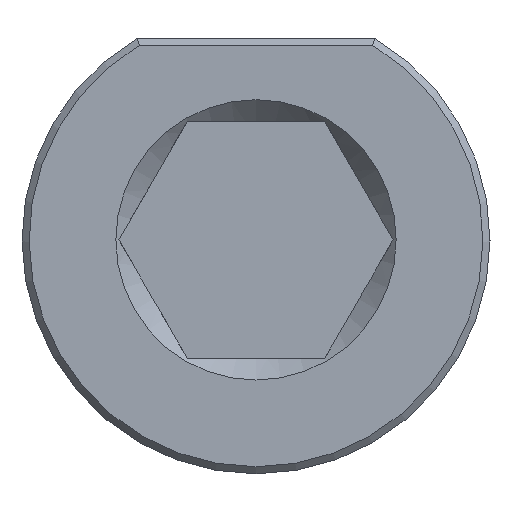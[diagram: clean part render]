
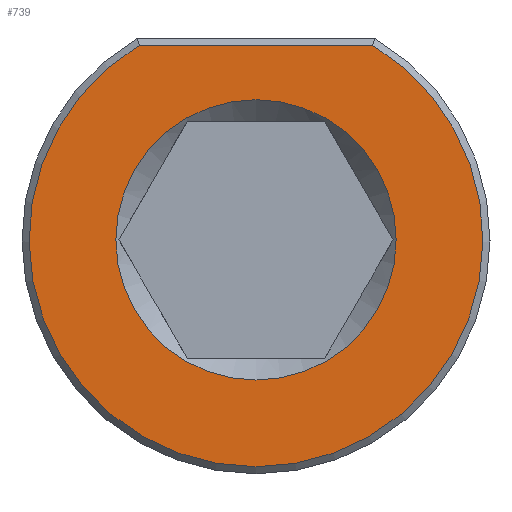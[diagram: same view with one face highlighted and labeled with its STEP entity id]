
A CAD part, front view. The second image highlights one B-rep face of the part: STEP entity #739.
In plain terms, the highlighted planar face has unit normal (0, -1, 0).
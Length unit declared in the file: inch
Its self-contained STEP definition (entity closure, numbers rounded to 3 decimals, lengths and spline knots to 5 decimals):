
#23=FACE_BOUND('',#215,.T.);
#50=PLANE('',#818);
#79=LINE('',#1436,#118);
#118=VECTOR('',#961,0.3937);
#169=FACE_OUTER_BOUND('',#214,.T.);
#214=EDGE_LOOP('',(#584,#585));
#215=EDGE_LOOP('',(#586));
#259=CIRCLE('',#814,0.4775);
#261=CIRCLE('',#819,0.295);
#340=VERTEX_POINT('',#1424);
#341=VERTEX_POINT('',#1429);
#344=VERTEX_POINT('',#1445);
#431=EDGE_CURVE('',#340,#341,#259,.T.);
#433=EDGE_CURVE('',#341,#340,#79,.T.);
#438=EDGE_CURVE('',#344,#344,#261,.T.);
#584=ORIENTED_EDGE('',*,*,#431,.F.);
#585=ORIENTED_EDGE('',*,*,#433,.F.);
#586=ORIENTED_EDGE('',*,*,#438,.F.);
#739=ADVANCED_FACE('',(#169,#23),#50,.F.);
#814=AXIS2_PLACEMENT_3D('',#1430,#957,#958);
#818=AXIS2_PLACEMENT_3D('',#1444,#969,#970);
#819=AXIS2_PLACEMENT_3D('',#1446,#971,#972);
#957=DIRECTION('center_axis',(0.,1.,0.));
#958=DIRECTION('ref_axis',(-0.507,0.,-0.862));
#961=DIRECTION('',(1.,0.,0.));
#969=DIRECTION('center_axis',(0.,1.,0.));
#970=DIRECTION('ref_axis',(1.,0.,0.));
#971=DIRECTION('center_axis',(0.,-1.,0.));
#972=DIRECTION('ref_axis',(1.,0.,0.));
#1424=CARTESIAN_POINT('',(0.24559,0.,0.4095));
#1429=CARTESIAN_POINT('',(-0.24559,0.,0.4095));
#1430=CARTESIAN_POINT('Origin',(0.,0.,0.));
#1436=CARTESIAN_POINT('',(-0.12486,0.,0.4095));
#1444=CARTESIAN_POINT('Origin',(0.,0.,-0.034));
#1445=CARTESIAN_POINT('',(-0.295,0.,0.));
#1446=CARTESIAN_POINT('Origin',(0.,0.,0.));
